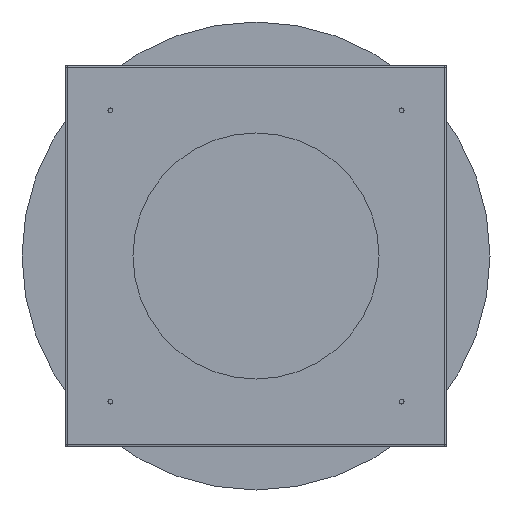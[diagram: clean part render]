
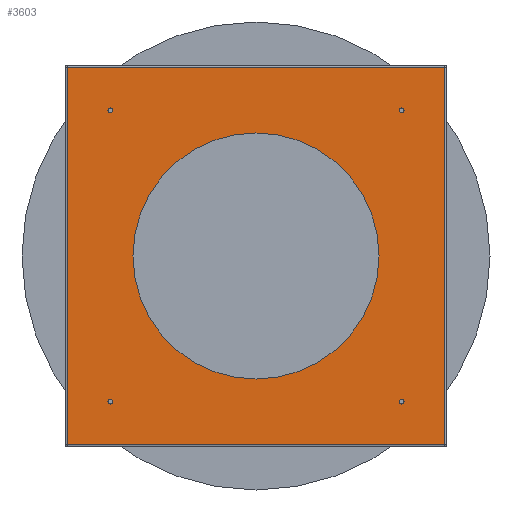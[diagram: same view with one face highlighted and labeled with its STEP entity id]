
A CAD part, front view. The second image highlights one B-rep face of the part: STEP entity #3603.
In plain terms, the highlighted planar face has unit normal (0, -1, 0).
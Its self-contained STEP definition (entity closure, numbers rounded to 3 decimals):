
#3603=ADVANCED_FACE('',(#7763,#7764,#7765,#7766,#7767,#7768),#7769,.F.);
#7763=FACE_BOUND('',#11932,.T.);
#7764=FACE_BOUND('',#11933,.T.);
#7765=FACE_BOUND('',#11934,.T.);
#7766=FACE_BOUND('',#11935,.T.);
#7767=FACE_BOUND('',#11936,.T.);
#7768=FACE_OUTER_BOUND('',#11937,.T.);
#7769=PLANE('',#11938);
#11932=EDGE_LOOP('',(#23890,#23891));
#11933=EDGE_LOOP('',(#23892,#23893));
#11934=EDGE_LOOP('',(#23894,#23895));
#11935=EDGE_LOOP('',(#23896,#23897));
#11936=EDGE_LOOP('',(#23898,#23899));
#11937=EDGE_LOOP('',(#23900,#23901,#23902,#23903));
#11938=AXIS2_PLACEMENT_3D('',#23904,#23905,#23906);
#23890=ORIENTED_EDGE('',*,*,#25244,.T.);
#23891=ORIENTED_EDGE('',*,*,#25211,.T.);
#23892=ORIENTED_EDGE('',*,*,#28702,.T.);
#23893=ORIENTED_EDGE('',*,*,#24005,.T.);
#23894=ORIENTED_EDGE('',*,*,#28705,.T.);
#23895=ORIENTED_EDGE('',*,*,#24000,.T.);
#23896=ORIENTED_EDGE('',*,*,#28708,.T.);
#23897=ORIENTED_EDGE('',*,*,#23995,.T.);
#23898=ORIENTED_EDGE('',*,*,#28711,.T.);
#23899=ORIENTED_EDGE('',*,*,#23990,.T.);
#23900=ORIENTED_EDGE('',*,*,#28719,.F.);
#23901=ORIENTED_EDGE('',*,*,#28725,.T.);
#23902=ORIENTED_EDGE('',*,*,#28731,.T.);
#23903=ORIENTED_EDGE('',*,*,#28759,.F.);
#23904=CARTESIAN_POINT('',(0.0,-275.5,0.0));
#23905=DIRECTION('',(0.0,1.0,0.0));
#23906=DIRECTION('',(0.0,0.0,1.0));
#23990=EDGE_CURVE('',#28799,#28803,#28805,.T.);
#23995=EDGE_CURVE('',#28808,#28812,#28814,.T.);
#24000=EDGE_CURVE('',#28817,#28821,#28823,.T.);
#24005=EDGE_CURVE('',#28826,#28830,#28832,.T.);
#25211=EDGE_CURVE('',#31232,#31236,#31238,.T.);
#25244=EDGE_CURVE('',#31236,#31232,#31284,.T.);
#28702=EDGE_CURVE('',#28830,#28826,#35883,.T.);
#28705=EDGE_CURVE('',#28821,#28817,#35886,.T.);
#28708=EDGE_CURVE('',#28812,#28808,#35889,.T.);
#28711=EDGE_CURVE('',#28803,#28799,#35892,.T.);
#28719=EDGE_CURVE('',#35897,#35903,#35904,.T.);
#28725=EDGE_CURVE('',#35897,#35911,#35913,.T.);
#28731=EDGE_CURVE('',#35911,#35915,#35922,.T.);
#28759=EDGE_CURVE('',#35903,#35915,#35963,.T.);
#28799=VERTEX_POINT('',#36006);
#28803=VERTEX_POINT('',#36011);
#28805=CIRCLE('',#36014,7.0);
#28808=VERTEX_POINT('',#36017);
#28812=VERTEX_POINT('',#36022);
#28814=CIRCLE('',#36025,7.0);
#28817=VERTEX_POINT('',#36028);
#28821=VERTEX_POINT('',#36033);
#28823=CIRCLE('',#36036,7.0);
#28826=VERTEX_POINT('',#36039);
#28830=VERTEX_POINT('',#36044);
#28832=CIRCLE('',#36047,7.0);
#31232=VERTEX_POINT('',#38473);
#31236=VERTEX_POINT('',#38478);
#31238=CIRCLE('',#38481,355.0);
#31284=CIRCLE('',#38531,355.0);
#35883=CIRCLE('',#44270,7.0);
#35886=CIRCLE('',#44273,7.0);
#35889=CIRCLE('',#44276,7.0);
#35892=CIRCLE('',#44279,7.0);
#35897=VERTEX_POINT('',#44284);
#35903=VERTEX_POINT('',#44290);
#35904=LINE('',#44291,#44292);
#35911=VERTEX_POINT('',#44301);
#35913=LINE('',#44303,#44304);
#35915=VERTEX_POINT('',#44306);
#35922=LINE('',#44313,#44314);
#35963=LINE('',#44363,#44364);
#36006=CARTESIAN_POINT('',(-413.0,-275.5,-420.0));
#36011=CARTESIAN_POINT('',(-427.0,-275.5,-420.0));
#36014=AXIS2_PLACEMENT_3D('',#44417,#44418,#44419);
#36017=CARTESIAN_POINT('',(427.0,-275.5,-420.0));
#36022=CARTESIAN_POINT('',(413.0,-275.5,-420.0));
#36025=AXIS2_PLACEMENT_3D('',#44425,#44426,#44427);
#36028=CARTESIAN_POINT('',(427.0,-275.5,420.0));
#36033=CARTESIAN_POINT('',(413.0,-275.5,420.0));
#36036=AXIS2_PLACEMENT_3D('',#44433,#44434,#44435);
#36039=CARTESIAN_POINT('',(-413.0,-275.5,420.0));
#36044=CARTESIAN_POINT('',(-427.0,-275.5,420.0));
#36047=AXIS2_PLACEMENT_3D('',#44441,#44442,#44443);
#38473=CARTESIAN_POINT('',(355.0,-275.5,0.));
#38478=CARTESIAN_POINT('',(-355.0,-275.5,0.));
#38481=AXIS2_PLACEMENT_3D('',#47988,#47989,#47990);
#38531=AXIS2_PLACEMENT_3D('',#48046,#48047,#48048);
#44270=AXIS2_PLACEMENT_3D('',#52696,#52697,#52698);
#44273=AXIS2_PLACEMENT_3D('',#52702,#52703,#52704);
#44276=AXIS2_PLACEMENT_3D('',#52708,#52709,#52710);
#44279=AXIS2_PLACEMENT_3D('',#52714,#52715,#52716);
#44284=CARTESIAN_POINT('',(545.0,-275.5,545.0));
#44290=CARTESIAN_POINT('',(545.0,-275.5,-545.0));
#44291=CARTESIAN_POINT('',(545.0,-275.5,0.0));
#44292=VECTOR('',#52729,1.0);
#44301=CARTESIAN_POINT('',(-545.0,-275.5,545.0));
#44303=CARTESIAN_POINT('',(0.0,-275.5,545.0));
#44304=VECTOR('',#52738,1.0);
#44306=CARTESIAN_POINT('',(-545.0,-275.5,-545.0));
#44313=CARTESIAN_POINT('',(-545.0,-275.5,0.0));
#44314=VECTOR('',#52748,1.0);
#44363=CARTESIAN_POINT('',(0.,-275.5,-545.0));
#44364=VECTOR('',#52793,1.0);
#44417=CARTESIAN_POINT('',(-420.0,-275.5,-420.0));
#44418=DIRECTION('',(-0.0,1.0,0.0));
#44419=DIRECTION('',(1.0,0.0,0.0));
#44425=CARTESIAN_POINT('',(420.0,-275.5,-420.0));
#44426=DIRECTION('',(-0.0,1.0,0.0));
#44427=DIRECTION('',(1.0,0.0,0.0));
#44433=CARTESIAN_POINT('',(420.0,-275.5,420.0));
#44434=DIRECTION('',(-0.0,1.0,0.0));
#44435=DIRECTION('',(1.0,0.0,0.0));
#44441=CARTESIAN_POINT('',(-420.0,-275.5,420.0));
#44442=DIRECTION('',(-0.0,1.0,0.0));
#44443=DIRECTION('',(1.0,0.0,0.0));
#47988=CARTESIAN_POINT('',(0.0,-275.5,0.0));
#47989=DIRECTION('',(-0.0,1.0,0.0));
#47990=DIRECTION('',(1.0,0.0,0.0));
#48046=CARTESIAN_POINT('',(0.0,-275.5,0.0));
#48047=DIRECTION('',(-0.0,1.0,0.0));
#48048=DIRECTION('',(1.0,0.0,0.0));
#52696=CARTESIAN_POINT('',(-420.0,-275.5,420.0));
#52697=DIRECTION('',(-0.0,1.0,0.0));
#52698=DIRECTION('',(1.0,0.0,0.0));
#52702=CARTESIAN_POINT('',(420.0,-275.5,420.0));
#52703=DIRECTION('',(-0.0,1.0,0.0));
#52704=DIRECTION('',(1.0,0.0,0.0));
#52708=CARTESIAN_POINT('',(420.0,-275.5,-420.0));
#52709=DIRECTION('',(-0.0,1.0,0.0));
#52710=DIRECTION('',(1.0,0.0,0.0));
#52714=CARTESIAN_POINT('',(-420.0,-275.5,-420.0));
#52715=DIRECTION('',(-0.0,1.0,0.0));
#52716=DIRECTION('',(1.0,0.0,0.0));
#52729=DIRECTION('',(0.0,0.0,-1.0));
#52738=DIRECTION('',(-1.0,0.,0.));
#52748=DIRECTION('',(0.0,0.0,-1.0));
#52793=DIRECTION('',(-1.0,0.,0.));
